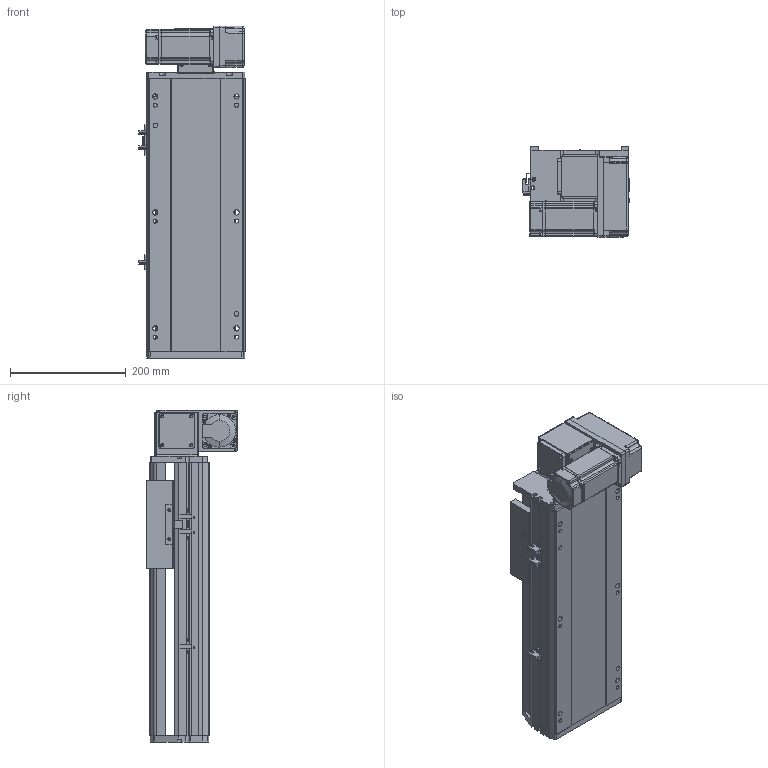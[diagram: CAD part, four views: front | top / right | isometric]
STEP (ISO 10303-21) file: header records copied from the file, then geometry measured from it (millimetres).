
FILE_DESCRIPTION (( 'STEP AP214' ), '1' );
FILE_NAME ('RTB17S-XX-200-RM-M40-C4.STEP', '2025-12-11T08:09:11', ( '' ), ( '' ), 'SwSTEP 2.0', 'SolidWorks 2018', '' );
FILE_SCHEMA (( 'AUTOMOTIVE_DESIGN' ));
Length unit declared in the file: millimetre
Products named in the file (14): RTB17S-L-004佪裝蹟譫蟀諉釱^RTB17S-XX-XX-RM-M40-C4; RTB17S-L-014-T20--々湍釱^RTB17S-RM-々湍釱蚾饜-400W_RTB17S-XX-XX-RM-M40-C4; RTB14-L-005P--轴承塑胶压盖^RTB17S-RM-皮带座装配-400W_RTB17S-XX-XX-RM-M40-C4; OMRON EE-SX672 传感器^RTB17S-XX-XX-RM-M40-C4; 400W侜督萇儂^RTB17S-XX-XX-RM-M40-C4; RTB17S-L-001耜醱啣^RTB17S-XX-XX-RM-M40-C4; RTB17-R-011菁釱^RTB17S-XX-XX-RM-M40-C4; RTB17S-XX-200-RM-M40-C4; RTB14-L-017P^RTB17S-RM-々湍釱蚾饜-400W_RTB17S-XX-XX-RM-M40-C4; RTB14-L-008-M20--萇儂啣^RTB17S-RM-々湍釱蚾饜-400W_RTB17S-XX-XX-RM-M40-C4; RTH13-BL-012覜茼え俋离^RTB17S-XX-XX-RM-M40-C4; RTB17S-RM-々湍釱蚾饜-400W^RTB17S-XX-XX-RM-M40-C4; RTB17S-L-007奻裔^RTB17S-XX-XX-RM-M40-C4; RTB14-L-018P^RTB17S-RM-々湍釱蚾饜-400W_RTB17S-XX-XX-RM-M40-C4
Assembly tree (16 placements, depth 3):
  RTB17S-XX-200-RM-M40-C4
    RTB17-R-011菁釱^RTB17S-XX-XX-RM-M40-C4
    RTB17S-L-007奻裔^RTB17S-XX-XX-RM-M40-C4
    OMRON EE-SX672 传感器^RTB17S-XX-XX-RM-M40-C4  x3
    RTB17S-L-001耜醱啣^RTB17S-XX-XX-RM-M40-C4
    400W侜督萇儂^RTB17S-XX-XX-RM-M40-C4
    RTB17S-L-004佪裝蹟譫蟀諉釱^RTB17S-XX-XX-RM-M40-C4
    RTH13-BL-012覜茼え俋离^RTB17S-XX-XX-RM-M40-C4
    RTB17S-RM-々湍釱蚾饜-400W^RTB17S-XX-XX-RM-M40-C4
      RTB17S-L-014-T20--々湍釱^RTB17S-RM-々湍釱蚾饜-400W_RTB17S-XX-XX-RM-M40-C4
      RTB14-L-005P--轴承塑胶压盖^RTB17S-RM-皮带座装配-400W_RTB17S-XX-XX-RM-M40-C4
      RTB14-L-008-M20--萇儂啣^RTB17S-RM-々湍釱蚾饜-400W_RTB17S-XX-XX-RM-M40-C4
      RTB14-L-017P^RTB17S-RM-々湍釱蚾饜-400W_RTB17S-XX-XX-RM-M40-C4  x2
      RTB14-L-018P^RTB17S-RM-々湍釱蚾饜-400W_RTB17S-XX-XX-RM-M40-C4
Bounding box: 183.5 x 156.5 x 572.5 mm (x, y, z)
Volume: 5853064.3 mm3; surface area: 785732.4 mm2
Topology: 15 solids, 15 shells, 2141 faces, 5871 edges, 3825 vertices
Faces by surface type: plane 1060, cylinder 633, bspline 301, cone 139, torus 8
Entity records: 59561 total; most frequent: CARTESIAN_POINT 16476, ORIENTED_EDGE 8586, DIRECTION 8036, EDGE_CURVE 4293, VERTEX_POINT 2813, AXIS2_PLACEMENT_3D 2743, LINE 2550, VECTOR 2550
